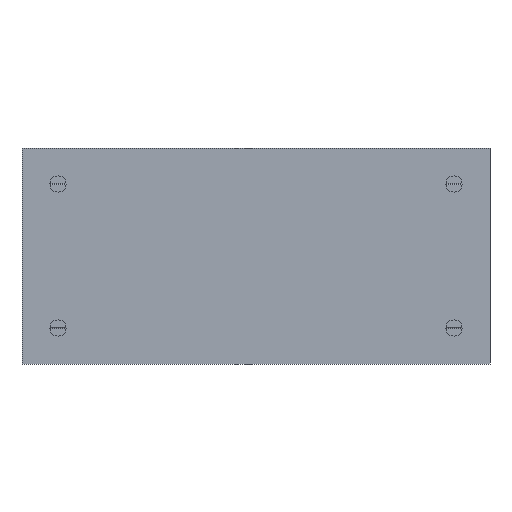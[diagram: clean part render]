
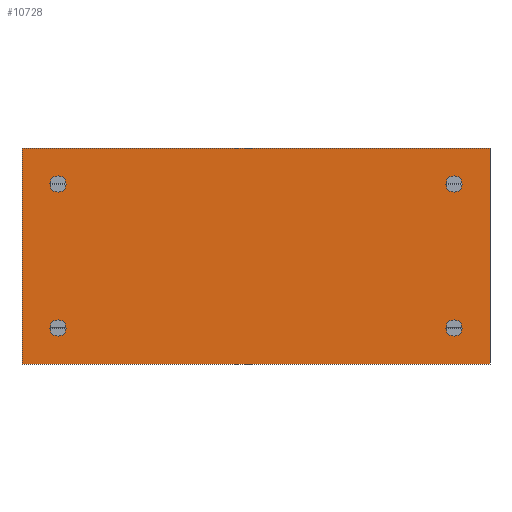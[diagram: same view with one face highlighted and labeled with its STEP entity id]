
A CAD part, front view. The second image highlights one B-rep face of the part: STEP entity #10728.
In plain terms, the highlighted planar face has unit normal (0, -1, 0).
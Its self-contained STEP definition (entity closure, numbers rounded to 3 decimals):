
#388=CIRCLE('',#11354,2.25);
#389=CIRCLE('',#11355,2.25);
#390=CIRCLE('',#11356,2.25);
#391=CIRCLE('',#11357,2.25);
#1112=ORIENTED_EDGE('',*,*,#4425,.T.);
#1113=ORIENTED_EDGE('',*,*,#4426,.F.);
#1114=ORIENTED_EDGE('',*,*,#4427,.F.);
#1115=ORIENTED_EDGE('',*,*,#4428,.F.);
#1116=ORIENTED_EDGE('',*,*,#4378,.T.);
#1117=ORIENTED_EDGE('',*,*,#4429,.F.);
#1118=ORIENTED_EDGE('',*,*,#4430,.F.);
#1119=ORIENTED_EDGE('',*,*,#4423,.T.);
#4378=EDGE_CURVE('',#6041,#6040,#7156,.T.);
#4423=EDGE_CURVE('',#6076,#6041,#7199,.T.);
#4425=EDGE_CURVE('',#6077,#6077,#388,.T.);
#4426=EDGE_CURVE('',#6078,#6078,#389,.T.);
#4427=EDGE_CURVE('',#6079,#6079,#390,.T.);
#4428=EDGE_CURVE('',#6080,#6080,#391,.T.);
#4429=EDGE_CURVE('',#6081,#6040,#7201,.T.);
#4430=EDGE_CURVE('',#6076,#6081,#7202,.T.);
#6040=VERTEX_POINT('',#16158);
#6041=VERTEX_POINT('',#16160);
#6076=VERTEX_POINT('',#16247);
#6077=VERTEX_POINT('',#16251);
#6078=VERTEX_POINT('',#16253);
#6079=VERTEX_POINT('',#16255);
#6080=VERTEX_POINT('',#16257);
#6081=VERTEX_POINT('',#16259);
#7156=LINE('',#16159,#8146);
#7199=LINE('',#16246,#8189);
#7201=LINE('',#16258,#8191);
#7202=LINE('',#16260,#8192);
#8146=VECTOR('',#12633,1000.);
#8189=VECTOR('',#12694,1000.);
#8191=VECTOR('',#12706,1000.);
#8192=VECTOR('',#12707,1000.);
#9121=EDGE_LOOP('',(#1112));
#9122=EDGE_LOOP('',(#1113));
#9123=EDGE_LOOP('',(#1114));
#9124=EDGE_LOOP('',(#1115));
#9125=EDGE_LOOP('',(#1116,#1117,#1118,#1119));
#9789=FACE_BOUND('',#9121,.T.);
#9790=FACE_BOUND('',#9122,.T.);
#9791=FACE_BOUND('',#9123,.T.);
#9792=FACE_BOUND('',#9124,.T.);
#9793=FACE_BOUND('',#9125,.T.);
#10455=PLANE('',#11353);
#10728=ADVANCED_FACE('',(#9789,#9790,#9791,#9792,#9793),#10455,.F.);
#11353=AXIS2_PLACEMENT_3D('',#16249,#12696,#12697);
#11354=AXIS2_PLACEMENT_3D('',#16250,#12698,#12699);
#11355=AXIS2_PLACEMENT_3D('',#16252,#12700,#12701);
#11356=AXIS2_PLACEMENT_3D('',#16254,#12702,#12703);
#11357=AXIS2_PLACEMENT_3D('',#16256,#12704,#12705);
#12633=DIRECTION('',(0.,0.,-1.));
#12694=DIRECTION('',(-1.,0.,0.));
#12696=DIRECTION('',(0.,1.,0.));
#12697=DIRECTION('',(0.,0.,1.));
#12698=DIRECTION('',(0.,1.,0.));
#12699=DIRECTION('',(0.,0.,1.));
#12700=DIRECTION('',(0.,-1.,0.));
#12701=DIRECTION('',(0.,0.,-1.));
#12702=DIRECTION('',(0.,-1.,0.));
#12703=DIRECTION('',(0.,0.,-1.));
#12704=DIRECTION('',(0.,-1.,0.));
#12705=DIRECTION('',(0.,0.,-1.));
#12706=DIRECTION('',(-1.,0.,0.));
#12707=DIRECTION('',(0.,0.,-1.));
#16158=CARTESIAN_POINT('',(0.,0.,-30.));
#16159=CARTESIAN_POINT('',(0.,0.,30.));
#16160=CARTESIAN_POINT('',(0.,0.,30.));
#16246=CARTESIAN_POINT('',(130.,0.,30.));
#16247=CARTESIAN_POINT('',(130.,0.,30.));
#16249=CARTESIAN_POINT('',(130.,0.,30.));
#16250=CARTESIAN_POINT('',(120.,0.,20.));
#16251=CARTESIAN_POINT('',(120.,0.,22.25));
#16252=CARTESIAN_POINT('',(120.,0.,-20.));
#16253=CARTESIAN_POINT('',(120.,0.,-22.25));
#16254=CARTESIAN_POINT('',(10.,0.,-20.));
#16255=CARTESIAN_POINT('',(10.,0.,-22.25));
#16256=CARTESIAN_POINT('',(10.,0.,20.));
#16257=CARTESIAN_POINT('',(10.,0.,17.75));
#16258=CARTESIAN_POINT('',(130.,0.,-30.));
#16259=CARTESIAN_POINT('',(130.,0.,-30.));
#16260=CARTESIAN_POINT('',(130.,0.,30.));
